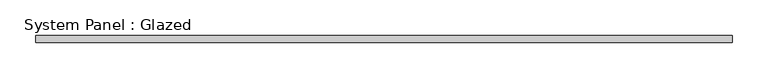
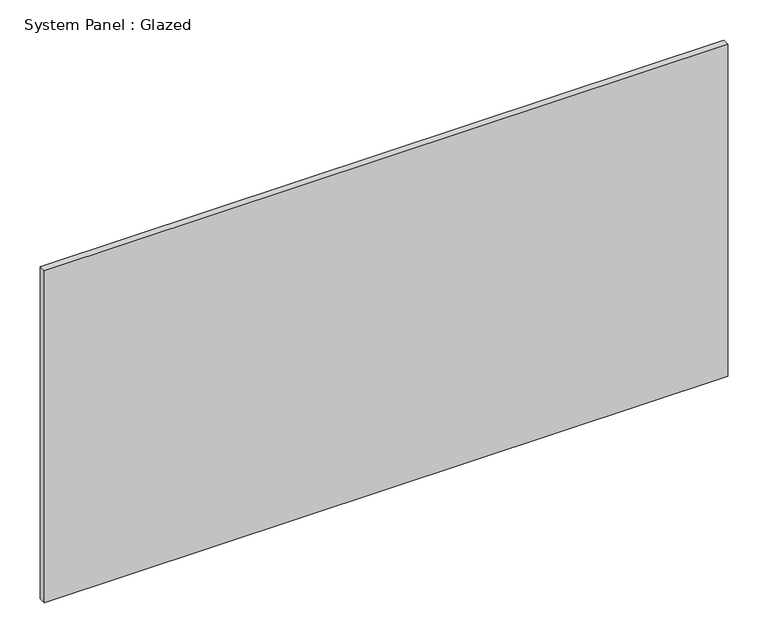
"""IFC4 building model written with IfcOpenShell, lengths in millimetres: plate geometry, System Panel : Glazed."""

from ifc_helpers import new_model, si_unit, origin, origin_with_axes, place, context, project, spatial, polyline, outline, extrude, source, transform, mapped, element, save


def system_panel_glazed_78c145c0(model_context):
    return source(origin(), model_context, "Body", "SweptSolid", [
        extrude(outline(polyline([(489.8832342, -5.0), (-489.8832342, -5.0), (-489.8832342, 5.0), (489.8832342, 5.0), (489.8832342, -5.0)])), origin_with_axes(), (0.0, 0.0, 1.0), 503.3333333),
    ])


if __name__ == "__main__":
    model = new_model("IFC4")
    model_context = context("Model", 3, world=origin())
    ifc_project = project(units=[si_unit("LENGTHUNIT", "METRE", prefix="MILLI")], contexts=[model_context])
    site = spatial("IfcSite", under=ifc_project)
    building = spatial("IfcBuilding", under=site)
    placement = place(None, origin())
    system_panel_glazed_shape = system_panel_glazed_78c145c0(model_context)
    element("IfcPlate", 1, ObjectType="System Panel : Glazed", at=placement, inside=building, context=model_context, shape_type="MappedRepresentation", body=[
        mapped(system_panel_glazed_shape, transform((0.0, 0.0, 0.0), x_axis=(1.0, 0.0, 0.0), y_axis=(0.0, 1.0, 0.0), z_axis=(0.0, 0.0, 1.0))),
    ])
    save(model, "model.ifc")
